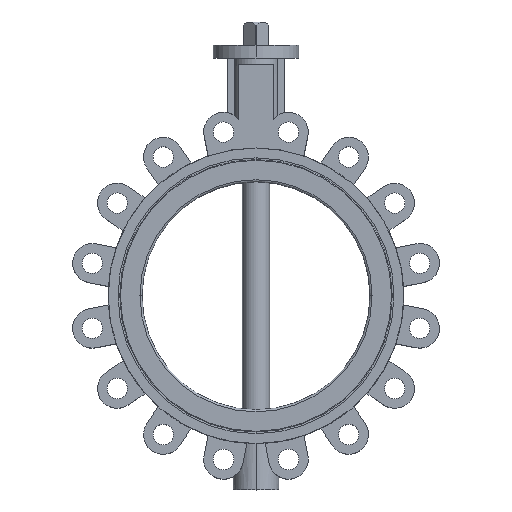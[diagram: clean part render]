
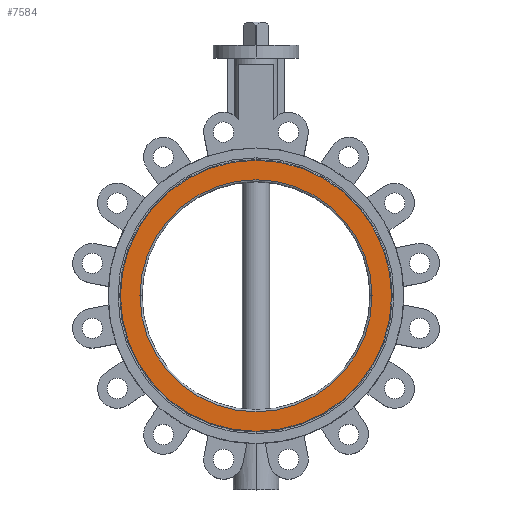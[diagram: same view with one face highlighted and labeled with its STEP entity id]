
A CAD part, top view. The second image highlights one B-rep face of the part: STEP entity #7584.
In plain terms, the highlighted planar face has unit normal (0, 0, 1) as drawn and (-1, 0, 0) by its records, which use the part's own axes.
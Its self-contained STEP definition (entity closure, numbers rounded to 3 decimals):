
#589 = EDGE_LOOP ( 'NONE', ( #7097, #3860 ) ) ;
#711 = CIRCLE ( 'NONE', #5258, 170.374 ) ;
#963 = CARTESIAN_POINT ( 'NONE',  ( -41., 0., 0. ) ) ;
#1155 = VERTEX_POINT ( 'NONE', #1919 ) ;
#1605 = CARTESIAN_POINT ( 'NONE',  ( -41., 199., 0. ) ) ;
#1647 = AXIS2_PLACEMENT_3D ( 'NONE', #1964, #2562, #1923 ) ;
#1732 = PLANE ( 'NONE',  #7105 ) ;
#1889 = CARTESIAN_POINT ( 'NONE',  ( -41., 0., -199. ) ) ;
#1919 = CARTESIAN_POINT ( 'NONE',  ( -41., 0., -170.374 ) ) ;
#1923 = DIRECTION ( 'NONE',  ( 0., 0., 1. ) ) ;
#1964 = CARTESIAN_POINT ( 'NONE',  ( -41., 0., 0. ) ) ;
#2285 = DIRECTION ( 'NONE',  ( 1., 0., 0. ) ) ;
#2562 = DIRECTION ( 'NONE',  ( -1., 0., 0. ) ) ;
#2832 = CARTESIAN_POINT ( 'NONE',  ( -41., 0., 0. ) ) ;
#2852 = DIRECTION ( 'NONE',  ( -1., 0., 0. ) ) ;
#3094 = EDGE_CURVE ( 'NONE', #1155, #3967, #711, .T. ) ;
#3198 = CIRCLE ( 'NONE', #1647, 199. ) ;
#3647 = DIRECTION ( 'NONE',  ( -1., 0., 0. ) ) ;
#3860 = ORIENTED_EDGE ( 'NONE', *, *, #6282, .T. ) ;
#3967 = VERTEX_POINT ( 'NONE', #6420 ) ;
#4120 = VERTEX_POINT ( 'NONE', #5569 ) ;
#4160 = EDGE_LOOP ( 'NONE', ( #7859, #4405 ) ) ;
#4257 = VERTEX_POINT ( 'NONE', #1889 ) ;
#4384 = FACE_OUTER_BOUND ( 'NONE', #589, .T. ) ;
#4405 = ORIENTED_EDGE ( 'NONE', *, *, #3094, .F. ) ;
#4456 = EDGE_CURVE ( 'NONE', #4120, #4257, #7849, .T. ) ;
#4709 = DIRECTION ( 'NONE',  ( -1., 0., 0. ) ) ;
#4767 = DIRECTION ( 'NONE',  ( 0., 0., -1. ) ) ;
#4807 = CARTESIAN_POINT ( 'NONE',  ( -41., 0., 0. ) ) ;
#4987 = FACE_BOUND ( 'NONE', #4160, .T. ) ;
#5258 = AXIS2_PLACEMENT_3D ( 'NONE', #4807, #2852, #7899 ) ;
#5569 = CARTESIAN_POINT ( 'NONE',  ( -41., 0., 199. ) ) ;
#5884 = DIRECTION ( 'NONE',  ( 0., 0., 1. ) ) ;
#6037 = AXIS2_PLACEMENT_3D ( 'NONE', #963, #4709, #5884 ) ;
#6125 = EDGE_CURVE ( 'NONE', #3967, #1155, #7083, .T. ) ;
#6282 = EDGE_CURVE ( 'NONE', #4257, #4120, #3198, .T. ) ;
#6420 = CARTESIAN_POINT ( 'NONE',  ( -41., 0., 170.374 ) ) ;
#6737 = DIRECTION ( 'NONE',  ( 0., 0., 1. ) ) ;
#7083 = CIRCLE ( 'NONE', #7746, 170.374 ) ;
#7097 = ORIENTED_EDGE ( 'NONE', *, *, #4456, .T. ) ;
#7105 = AXIS2_PLACEMENT_3D ( 'NONE', #1605, #2285, #4767 ) ;
#7584 = ADVANCED_FACE ( 'NONE', ( #4987, #4384 ), #1732, .F. ) ;
#7746 = AXIS2_PLACEMENT_3D ( 'NONE', #2832, #3647, #6737 ) ;
#7849 = CIRCLE ( 'NONE', #6037, 199. ) ;
#7859 = ORIENTED_EDGE ( 'NONE', *, *, #6125, .F. ) ;
#7899 = DIRECTION ( 'NONE',  ( 0., 0., 1. ) ) ;
